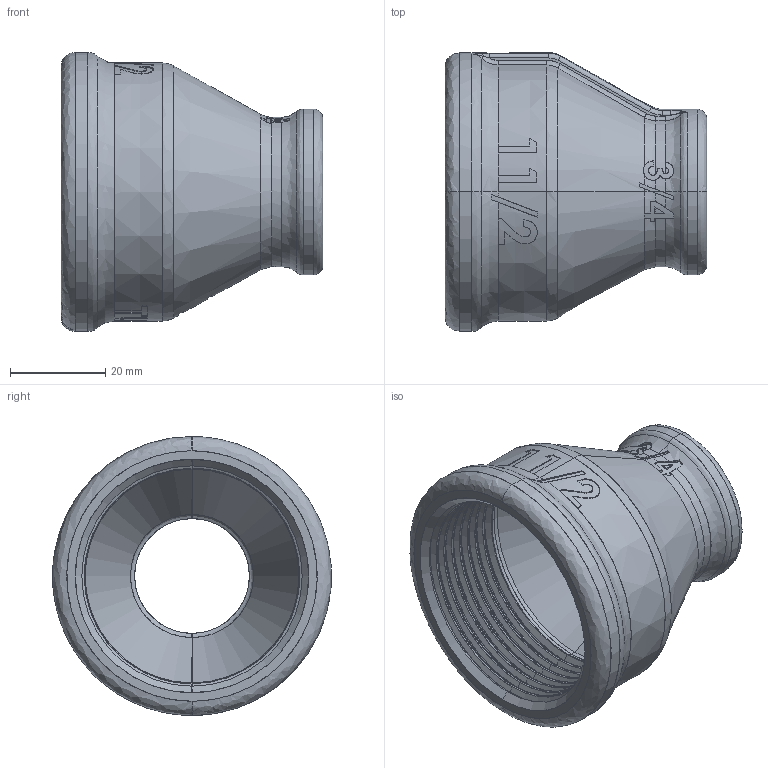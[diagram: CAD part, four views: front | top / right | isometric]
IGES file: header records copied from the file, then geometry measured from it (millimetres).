
Start section: SolidWorks IGES file using analytic representation for surfaces
Global section: file name: C:\Users\Joel Rosa\Desktop\Tubulação\12-32-OK\12-32-040.IGS; native system: SolidWorks 2011; preprocessor: SolidWorks 2011; author: Joel Rosa; date: 121208.225138; units: millimetre
Bounding box: 55 x 58.6 x 58.6 mm (x, y, z)
Surface area: 18842.4 mm2 (no closed solid volume)
Topology: 0 solids, 0 shells, 431 faces, 3806 edges, 3804 vertices
Faces by surface type: bspline 303, revolution 128
